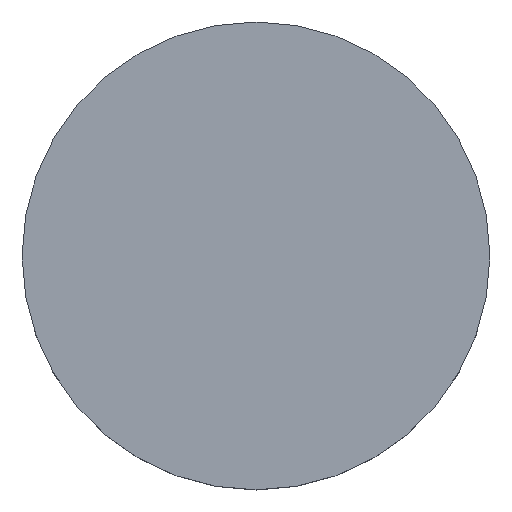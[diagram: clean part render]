
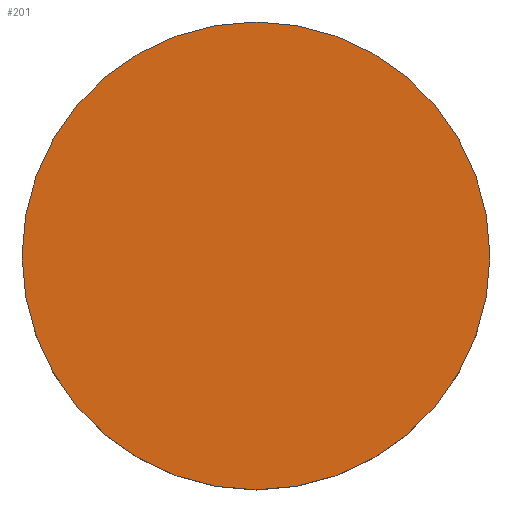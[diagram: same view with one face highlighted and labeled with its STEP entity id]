
A CAD part, top view. The second image highlights one B-rep face of the part: STEP entity #201.
In plain terms, the highlighted planar face has unit normal (0, 0, 1).
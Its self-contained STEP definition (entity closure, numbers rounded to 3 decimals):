
#201=ADVANCED_FACE('',(#257),#244,.T.);
#244=PLANE('',#710);
#257=FACE_OUTER_BOUND('',#289,.T.);
#289=EDGE_LOOP('',(#343,#344));
#343=ORIENTED_EDGE('',*,*,#565,.F.);
#344=ORIENTED_EDGE('',*,*,#566,.F.);
#511=VERTEX_POINT('',#1041);
#512=VERTEX_POINT('',#1042);
#565=EDGE_CURVE('',#511,#512,#649,.T.);
#566=EDGE_CURVE('',#512,#511,#650,.T.);
#649=CIRCLE('',#708,14.);
#650=CIRCLE('',#709,14.);
#708=AXIS2_PLACEMENT_3D('',#1040,#811,#812);
#709=AXIS2_PLACEMENT_3D('',#1043,#813,#814);
#710=AXIS2_PLACEMENT_3D('',#1044,#815,#816);
#811=DIRECTION('',(0.,0.,-1.));
#812=DIRECTION('',(0.,1.,0.));
#813=DIRECTION('',(0.,0.,-1.));
#814=DIRECTION('',(0.,-1.,0.));
#815=DIRECTION('',(0.,0.,1.));
#816=DIRECTION('',(0.,-1.,0.));
#1040=CARTESIAN_POINT('',(0.,0.,5.));
#1041=CARTESIAN_POINT('',(14.,0.,5.));
#1042=CARTESIAN_POINT('',(-14.,0.,5.));
#1043=CARTESIAN_POINT('',(0.,0.,5.));
#1044=CARTESIAN_POINT('',(0.,0.,5.));
